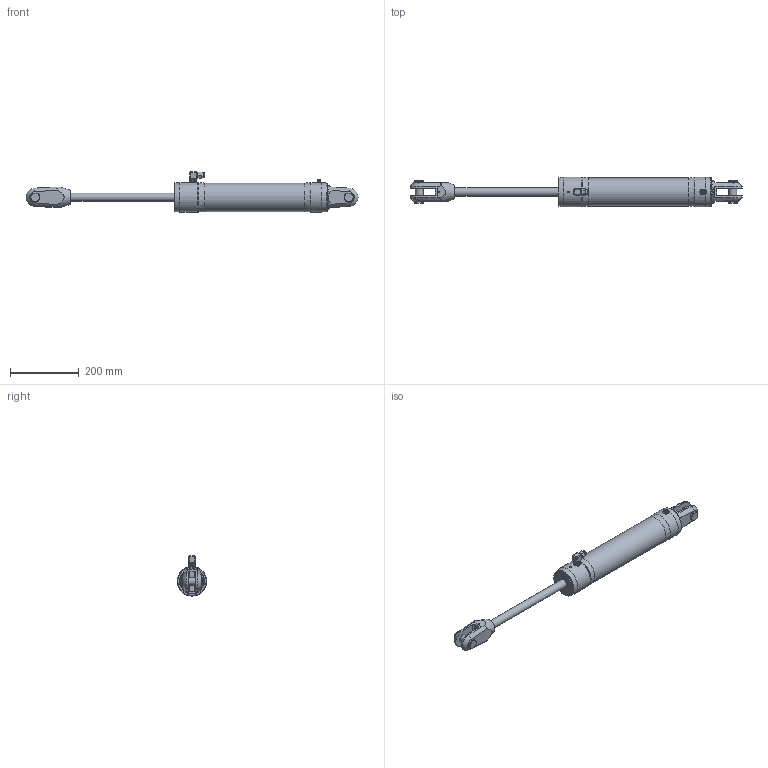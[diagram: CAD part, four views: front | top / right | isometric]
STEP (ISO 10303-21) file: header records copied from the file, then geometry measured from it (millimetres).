
FILE_DESCRIPTION(/* description */ (''),/* implementation_level */ '2;1');
FILE_NAME(/* name */ 'Q:\AA BRAND HYDRAULICS\HYDRAULICS FAMILY DIRECTORY\HYDRAULICS\CYLINDERS\RAMS\ALUMINIUM - STANDARD SINGLE ACTING (-0006 To -0260)\RSA-0030-S0300-NP-71\RSA-0030-S0300-NP-71 (Open).stp',/* time_stamp */ '2017-11-30T11:07:57+00:00',/* author */ ('Lorena'),/* organization */ (''),/* preprocessor_version */ 'ST-DEVELOPER v16.13',/* originating_system */ 'Autodesk Inventor 2018',/* authorisation */ '');
FILE_SCHEMA (('AUTOMOTIVE_DESIGN { 1 0 10303 214 3 1 1 }'));
Products named in the file (1): RSA-0030-S0300-NP-71 (Open)
Bounding box: 963.41 x 85.6 x 116.4 mm (x, y, z)
Volume: 2974199.5 mm3; surface area: 215312.7 mm2
Topology: 1 solids, 4 shells, 1615 faces, 4280 edges, 2823 vertices
Faces by surface type: plane 894, bspline 573, cylinder 82, cone 57, torus 5, sphere 4
Full cylindrical faces by diameter (mm): 4 x1, 4.134 x1, 4.2 x2, 4.4 x1, 5 x1, 5.1 x1, 7 x1, 8 x2, 9 x3, 10 x2, 11.11 x1, 11.157 x1, 11.8 x1, 12 x1, 12.157 x1, 13 x1, 13.157 x2, 14.5 x2, 16 x2, 18.3 x2, 22 x1, 22.23 x2, 24 x1, 27.788 x2, 49 x1, 82.6 x1, 85.6 x4
Entity records: 56503 total; most frequent: CARTESIAN_POINT 19217, ORIENTED_EDGE 8314, DIRECTION 5289, EDGE_CURVE 4157, VERTEX_POINT 2786, LINE 2681, VECTOR 2681, EDGE_LOOP 1854
